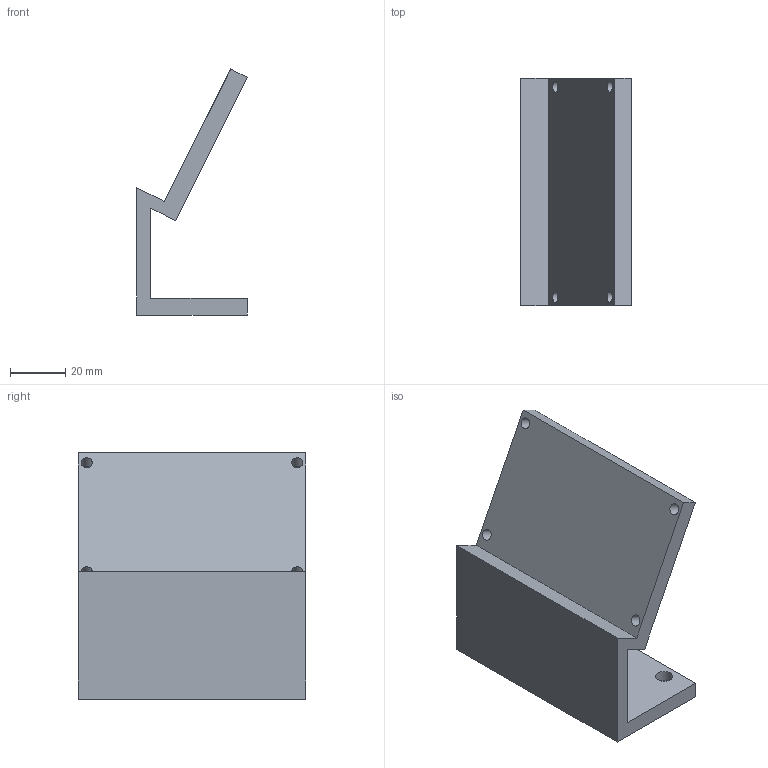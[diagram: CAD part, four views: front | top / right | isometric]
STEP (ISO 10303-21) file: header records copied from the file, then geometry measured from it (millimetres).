
FILE_DESCRIPTION(/* description */ (''),/* implementation_level */ '2;1');
FILE_NAME(/* name */ '/Users/simonhu/OneDrive - FH JOANNEUM/5Semsester/Projekt/3D/Display_halterung/display_halterung.step',/* time_stamp */ '2022-01-30T16:31:20+01:00',/* author */ (''),/* organization */ (''),/* preprocessor_version */ 'ST-DEVELOPER v18.1',/* originating_system */ 'Autodesk Translation Framework v10.13.0.1454',/* authorisation */ '');
FILE_SCHEMA (('AUTOMOTIVE_DESIGN { 1 0 10303 214 3 1 1 }'));
Length unit declared in the file: millimetre
Products named in the file (1): display_halterung
Bounding box: 40 x 82 x 88.89 mm (x, y, z)
Volume: 68790.5 mm3; surface area: 26598 mm2
Topology: 1 solids, 1 shells, 22 faces, 54 edges, 36 vertices
Faces by surface type: plane 14, cylinder 8
Full cylindrical faces by diameter (mm): 3.6 x2, 4 x4, 6.2 x2
Entity records: 711 total; most frequent: DIRECTION 116, CARTESIAN_POINT 113, ORIENTED_EDGE 108, EDGE_CURVE 54, AXIS2_PLACEMENT_3D 39, LINE 38, VECTOR 38, EDGE_LOOP 36
